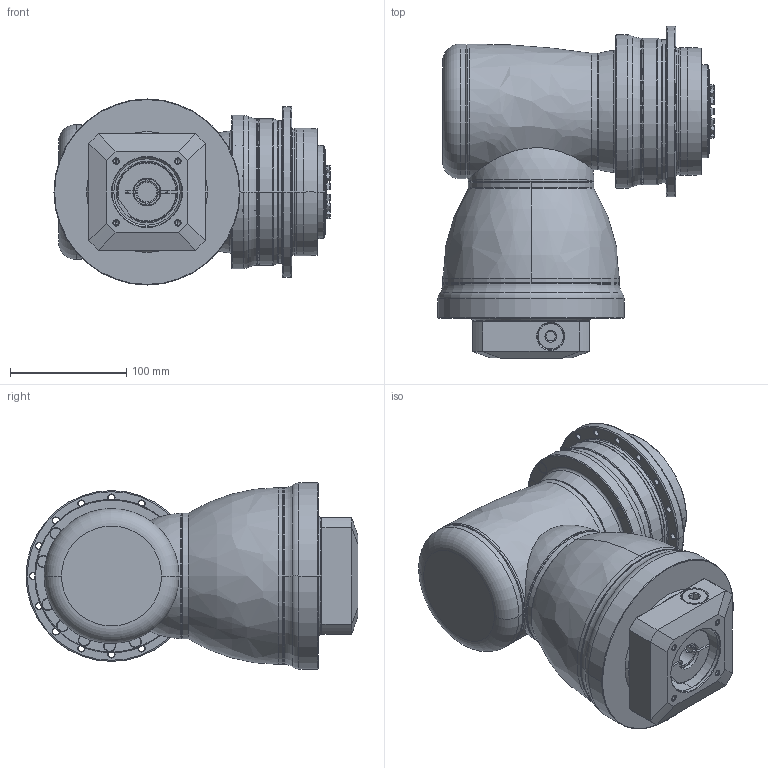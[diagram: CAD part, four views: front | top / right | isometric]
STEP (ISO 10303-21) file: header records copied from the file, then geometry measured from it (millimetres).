
FILE_DESCRIPTION((''),'2;1');
FILE_NAME('APCK110_2ST_SBG_19-P0409410201_ASM','2018-05-18T',('d01226'),(''),'PRO/ENGINEER BY PARAMETRIC TECHNOLOGY CORPORATION, 2008410','PRO/ENGINEER BY PARAMETRIC TECHNOLOGY CORPORATION, 2008410','');
FILE_SCHEMA(('CONFIG_CONTROL_DESIGN'));
Length unit declared in the file: millimetre
Products named in the file (13): P0278401003; P03594C0103; P1211400001; P1802410011; P1018500002; P1365500001; P1007501001; P1318501701; P0409410201; P0503400008; P0129507001; 21711416017; APCK110_2ST_SBG_19-P0409410201_ASM
Assembly tree (12 placements, depth 2):
  APCK110_2ST_SBG_19-P0409410201_ASM
    P0278401003
    P03594C0103
    P1211400001
    P1802410011
    P1018500002
    P1365500001
    P1007501001
    P1318501701
    P0409410201
    P0503400008
    P0129507001
    21711416017
Bounding box: 237.4 x 285.5 x 160 mm (x, y, z)
Volume: 4622895.9 mm3; surface area: 452596.4 mm2
Topology: 13 solids, 23 shells, 762 faces, 1789 edges, 1106 vertices
Faces by surface type: cylinder 268, cone 210, plane 161, torus 108, bspline 13, sphere 2
Entity records: 24135 total; most frequent: CARTESIAN_POINT 5930, DIRECTION 4157, ORIENTED_EDGE 3508, AXIS2_PLACEMENT_3D 1822, EDGE_CURVE 1775, VERTEX_POINT 1106, CIRCLE 1038, EDGE_LOOP 875
